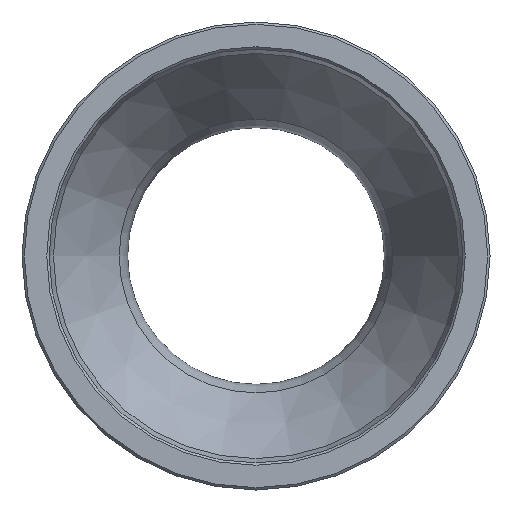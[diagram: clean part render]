
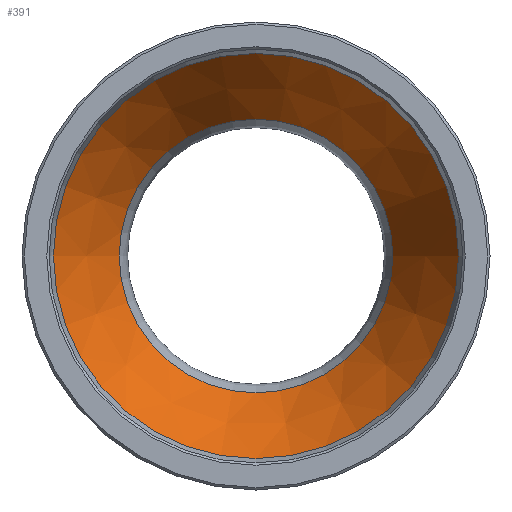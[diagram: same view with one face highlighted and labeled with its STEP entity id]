
A CAD part, left-side view. The second image highlights one B-rep face of the part: STEP entity #391.
In plain terms, the highlighted conical face has half-angle 30.242 degrees and reference radius 14.398 mm.
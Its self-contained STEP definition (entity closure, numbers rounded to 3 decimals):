
#357=CARTESIAN_POINT('',(-4.68,11.612,0.0));
#358=VERTEX_POINT('',#357);
#359=CARTESIAN_POINT('',(-4.68,0.0,0.0));
#360=DIRECTION('',(1.0,0.0,0.0));
#361=DIRECTION('',(0.0,1.0,0.0));
#362=AXIS2_PLACEMENT_3D('',#359,#360,#361);
#363=CIRCLE('',#362,11.612);
#364=EDGE_CURVE('',#358,#358,#363,.T.);
#372=CARTESIAN_POINT('',(-9.46,0.0,0.0));
#373=DIRECTION('',(-1.0,0.0,0.0));
#374=DIRECTION('',(0.0,1.0,0.0));
#375=AXIS2_PLACEMENT_3D('',#372,#373,#374);
#376=CONICAL_SURFACE('',#375,14.398,30.242);
#377=CARTESIAN_POINT('',(-14.24,17.185,0.0));
#378=VERTEX_POINT('',#377);
#379=CARTESIAN_POINT('',(-14.24,0.0,0.0));
#380=DIRECTION('',(1.0,0.0,0.0));
#381=DIRECTION('',(0.0,1.0,0.0));
#382=AXIS2_PLACEMENT_3D('',#379,#380,#381);
#383=CIRCLE('',#382,17.185);
#384=EDGE_CURVE('',#378,#378,#383,.T.);
#385=ORIENTED_EDGE('',*,*,#384,.F.);
#386=EDGE_LOOP('',(#385));
#387=FACE_OUTER_BOUND('',#386,.T.);
#388=ORIENTED_EDGE('',*,*,#364,.T.);
#389=EDGE_LOOP('',(#388));
#390=FACE_BOUND('',#389,.T.);
#391=ADVANCED_FACE('',(#387,#390),#376,.F.);
